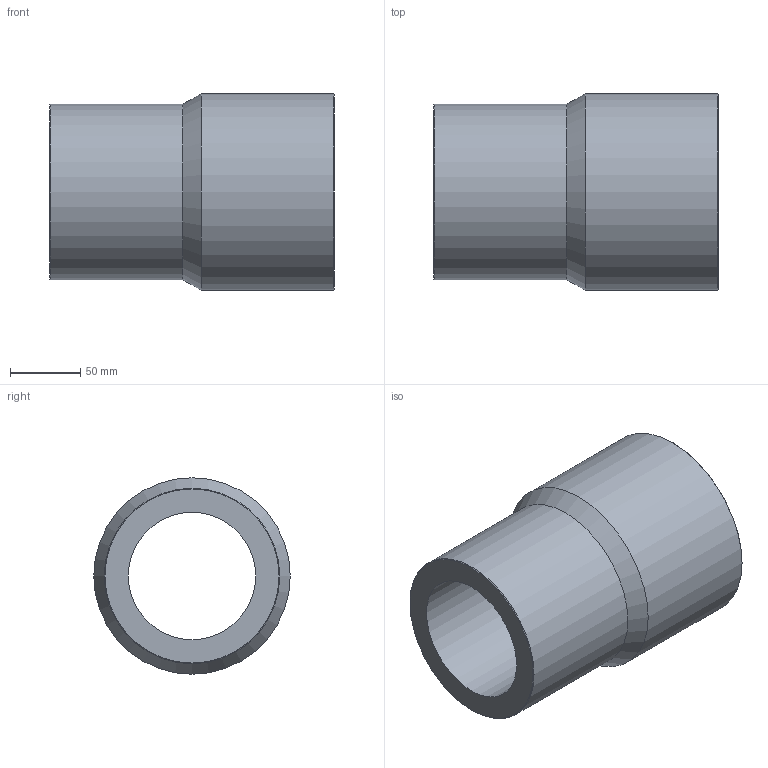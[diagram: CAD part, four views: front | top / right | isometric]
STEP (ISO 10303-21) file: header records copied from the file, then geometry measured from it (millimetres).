
FILE_DESCRIPTION(/* description */ ('Unknown'),/* implementation_level */ '2;1');
FILE_NAME(/* name */ 'RP140125H',/* time_stamp */ '2021-09-16T12:35:18+02:00',/* author */ ('Unknown'),/* organization */ ('Unknown'),/* preprocessor_version */ 'ST-DEVELOPER v16.7',/* originating_system */ 'Solid Edge',/* authorisation */ 'Unknown');
FILE_SCHEMA (('AUTOMOTIVE_DESIGN {1 0 10303 214 3 1 1}'));
Length unit declared in the file: millimetre
Products named in the file (1): RP140125H
Bounding box: 203 x 140 x 140 mm (x, y, z)
Volume: 1330931.4 mm3; surface area: 159743.4 mm2
Topology: 1 solids, 1 shells, 10 faces, 19 edges, 11 vertices
Faces by surface type: cylinder 4, cone 4, plane 2
Full cylindrical faces by diameter (mm): 90.8 x1, 101.6 x1, 125 x1, 140 x1
Entity records: 238 total; most frequent: DIRECTION 42, CARTESIAN_POINT 31, AXIS2_PLACEMENT_3D 21, ORIENTED_EDGE 20, EDGE_LOOP 20, FACE_BOUND 20, EDGE_CURVE 10, VERTEX_POINT 10
